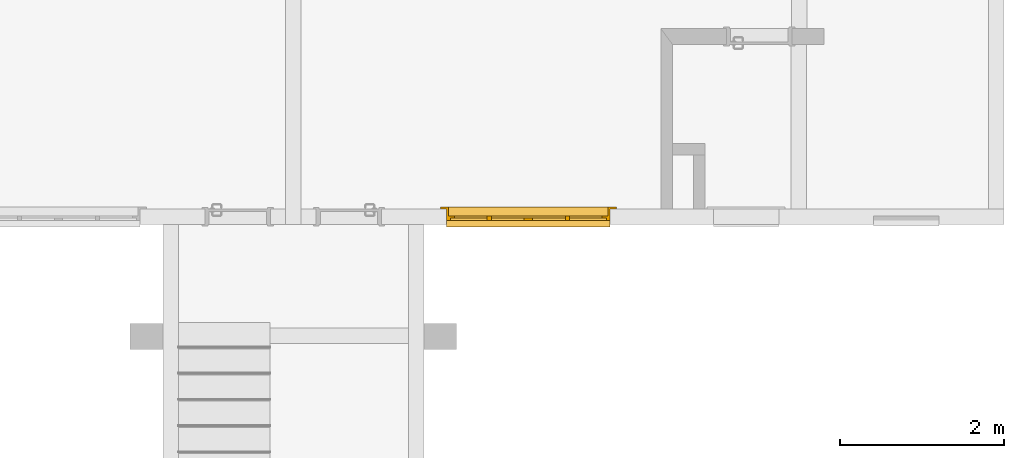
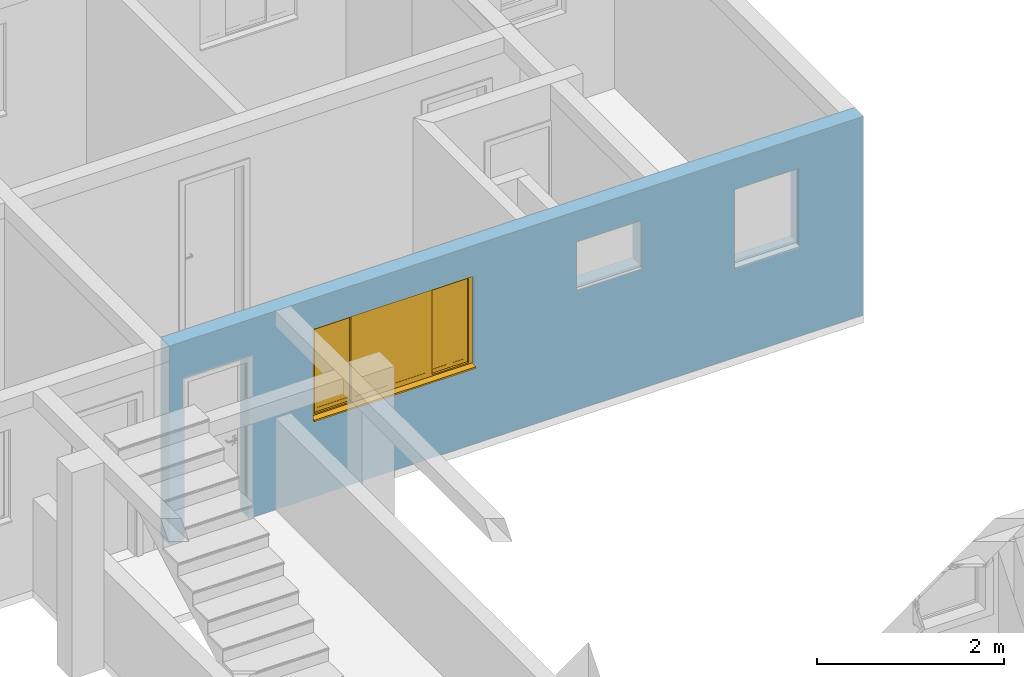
# One storey, part 29 of 43: 1 window, 4 openings, plus 1 element that does not belong to this part.
"""IFC2X3 building model written with IfcOpenShell, lengths in millimetres."""

from ifc_helpers import new_model, entity, si_unit, converted_unit, derived_unit, money_unit, direction, frame, origin_with_axes, origin_2d_with_axis, place, context, subcontext, project, spatial, polyline, rectangle, outline, extrude, open_shell, faceted_brep, surface_model, source, transform, mapped, material, layer, layer_set, layer_usage, type_object, element, fill, save


model = new_model("IFC2X3")

# Units and contexts
model_context = context("Model", 3, precision=0.01, world=origin_with_axes(), true_north=direction((0.0, 1.0)))
body_context = subcontext(model_context, "Body", "Model", "MODEL_VIEW")
ifc_project = project(units=[si_unit("LENGTHUNIT", "METRE", prefix="MILLI"), si_unit("AREAUNIT", "SQUARE_METRE"), si_unit("VOLUMEUNIT", "CUBIC_METRE"), converted_unit("PLANEANGLEUNIT", "DEGREE", entity("IfcPlaneAngleMeasure", 0.0174532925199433), si_unit("PLANEANGLEUNIT", "RADIAN"), dimensions=[0, 0, 0, 0, 0, 0, 0]), money_unit("USD"), converted_unit("TIMEUNIT", "Year", entity("IfcTimeMeasure", 31557600.0), si_unit("TIMEUNIT", "SECOND"), dimensions=[0, 0, 1, 0, 0, 0, 0]), si_unit("MASSUNIT", "GRAM", prefix="KILO"), si_unit("THERMODYNAMICTEMPERATUREUNIT", "DEGREE_CELSIUS"), si_unit("LUMINOUSINTENSITYUNIT", "LUMEN"), si_unit("ENERGYUNIT", "JOULE", prefix="MEGA"), derived_unit("THERMALCONDUCTANCEUNIT", [(si_unit("POWERUNIT", "WATT"), 1), (si_unit("LENGTHUNIT", "METRE"), -1), (si_unit("THERMODYNAMICTEMPERATUREUNIT", "KELVIN"), -1)]), derived_unit("SPECIFICHEATCAPACITYUNIT", [(si_unit("ENERGYUNIT", "JOULE"), 1), (si_unit("MASSUNIT", "GRAM", prefix="KILO"), -1), (si_unit("THERMODYNAMICTEMPERATUREUNIT", "KELVIN"), -1)]), derived_unit("MASSDENSITYUNIT", [(si_unit("MASSUNIT", "GRAM", prefix="KILO"), 1), (si_unit("VOLUMEUNIT", "CUBIC_METRE"), -1)])], contexts=[model_context])

# Site, building, storey
site_placement = place(None, origin_with_axes())
site = spatial("IfcSite", under=ifc_project, at=site_placement, Name="Local", CompositionType="ELEMENT")
building_placement = place(site_placement, origin_with_axes())
building = spatial("IfcBuilding", under=site, at=building_placement, Name="Construção", CompositionType="ELEMENT")
storey_placement = place(building_placement, origin_with_axes())
storey = spatial("IfcBuildingStorey", under=building, at=storey_placement, Name="Pavimento Tipo", CompositionType="ELEMENT", Elevation=0.0)

# Wall, openings, window
ifc_material = material(Name="Concreto - Estrutural")
ifc_layer = layer(ifc_material, 190.0, ventilated="UNKNOWN")
ifc_layer_set = layer_set([ifc_layer], Name="Concreto - Estrutural 190")
ifc_layer_usage = layer_usage(ifc_layer_set, "AXIS2", "POSITIVE", 0.0)
wall_type = type_object("IfcWallType", Name="Concreto - Estrutural 190", PredefinedType="NOTDEFINED")
wall_placement = place(storey_placement, frame((72476.96486497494, 5832.461520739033, 0.0), z_axis=(0.0, 0.0, 1.0), x_axis=(-1.0, 0.0, 0.0)))
wall = element("IfcWallStandardCase", 1, at=wall_placement, inside=storey, type_object=wall_type, material=ifc_layer_usage, Name="Apartamento 1 - Parede-001", context=body_context, shape_type="SweptSolid", body=[
    extrude(outline(polyline([(0.0, 0.0), (8584.765133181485, 0.0), (8584.765133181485, 190.0000000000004), (0.0, 190.0000000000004), (0.0, 0.0)])), origin_with_axes(), (0.0, 0.0, 1.0), 2600.0),
])
opening_1_placement = place(wall_placement, frame((1195.000000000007, 0.0, 1200.0), z_axis=(0.0, 0.0, 1.0), x_axis=(1.0, 0.0, 0.0)))
element("IfcOpeningElement", 2, at=opening_1_placement, cuts=wall, Name="Apartamento 1 - J03", context=body_context, shape_type="SweptSolid", body=[
    extrude(rectangle(XDim=800.0000000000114, YDim=1000.0, at=origin_2d_with_axis()), frame((0.0, 139.9999999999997, 500.0), z_axis=(0.0, -1.0, 0.0), x_axis=(-1.0, 0.0, 0.0)), (0.0, 0.0, 1.0), 330.0),
    extrude(rectangle(XDim=800.0000000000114, YDim=1000.0, at=origin_2d_with_axis()), frame((0.0, 139.9999999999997, 500.0), z_axis=(0.0, 1.0, 0.0), x_axis=(-1.0, 0.0, 0.0)), (0.0, 0.0, 1.0), 240.0),
    extrude(rectangle(XDim=800.0000000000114, YDim=30.00000000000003, at=origin_2d_with_axis()), frame((0.0, 104.9999999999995, -14.9999999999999), z_axis=(0.0, 1.0, 0.0), x_axis=(-1.0, 0.0, 0.0)), (0.0, 0.0, 1.0), 225.0),
])
opening_2_placement = place(wall_placement, frame((3149.999999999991, 0.0, 1600.0), z_axis=(0.0, 0.0, 1.0), x_axis=(1.0, 0.0, 0.0)))
element("IfcOpeningElement", 3, at=opening_2_placement, cuts=wall, Name="Apartamento 1 - J02", context=body_context, shape_type="SweptSolid", body=[
    extrude(rectangle(XDim=800.0000000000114, YDim=600.0000000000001, at=origin_2d_with_axis()), frame((0.0, -190.0000000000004, 300.0000000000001), z_axis=(0.0, -1.0, 0.0), x_axis=(-1.0, 0.0, 0.0)), (0.0, 0.0, -1.0), 570.0000000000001),
    extrude(rectangle(XDim=800.0000000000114, YDim=30.00000000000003, at=origin_2d_with_axis()), frame((0.0, 155.0000000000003, -14.9999999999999), z_axis=(0.0, 1.0, 0.0), x_axis=(-1.0, 0.0, 0.0)), (0.0, 0.0, 1.0), 225.0),
    extrude(rectangle(XDim=949.9999999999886, YDim=750.0000000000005, at=origin_2d_with_axis()), frame((0.0, 0.0, 300.0000000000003), z_axis=(0.0, -1.0, 0.0), x_axis=(-1.0, 0.0, 0.0)), (0.0, 0.0, 1.0), 190.0),
])
opening_3_placement = place(wall_placement, frame((5810.000000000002, 0.0, 1000.0), z_axis=(0.0, 0.0, 1.0), x_axis=(1.0, 0.0, 0.0)))
opening_3 = element("IfcOpeningElement", 4, at=opening_3_placement, cuts=wall, Name="Apartamento 1 - J01", context=body_context, shape_type="SweptSolid", body=[
    extrude(rectangle(XDim=2000.0, YDim=1200.0, at=origin_2d_with_axis()), frame((0.0, 139.9999999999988, 600.0000000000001), z_axis=(0.0, 1.0, 0.0), x_axis=(1.0, 0.0, 0.0)), (0.0, 0.0, -1.0), 330.0),
    extrude(rectangle(XDim=2000.0, YDim=1200.0, at=origin_2d_with_axis()), frame((0.0, 139.9999999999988, 600.0000000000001), z_axis=(0.0, -1.0, 0.0), x_axis=(1.0, 0.0, 0.0)), (0.0, 0.0, -1.0), 240.0),
    extrude(rectangle(XDim=2150.000000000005, YDim=1350.0, at=origin_2d_with_axis()), frame((0.0, 0.0, 599.9999999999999), z_axis=(0.0, 1.0, 0.0), x_axis=(1.0, 0.0, 0.0)), (0.0, 0.0, -1.0), 240.0),
])
opening_4_placement = place(wall_placement, frame((8000.0, 0.0, 0.0), z_axis=(0.0, 0.0, 1.0), x_axis=(1.0, 0.0, 0.0)))
element("IfcOpeningElement", 5, at=opening_4_placement, cuts=wall, Name="Apartamento 1 - P01", context=body_context, shape_type="SweptSolid", body=[
    extrude(rectangle(XDim=800.0000000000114, YDim=2100.0, at=origin_2d_with_axis()), frame((0.0, -190.0000000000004, 1050.0), z_axis=(0.0, -1.0, 0.0), x_axis=(1.0, 0.0, 0.0)), (0.0, 0.0, -1.0), 570.0000000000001),
    extrude(rectangle(XDim=870.0000000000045, YDim=2135.0, at=origin_2d_with_axis()), frame((0.0, 0.0, 1067.5), z_axis=(0.0, -1.0, 0.0), x_axis=(1.0, 0.0, 0.0)), (0.0, 0.0, 1.0), 190.0),
    extrude(rectangle(XDim=870.0000000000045, YDim=2135.0, at=origin_2d_with_axis()), frame((0.0, 189.9999999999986, 1067.5), z_axis=(0.0, 1.0, 0.0), x_axis=(1.0, 0.0, 0.0)), (0.0, 0.0, 1.0), 190.0),
])
window_style = type_object("IfcWindowStyle", Name="Janela de Correr 4-Folhas 27", ConstructionType="NOTDEFINED", OperationType="USERDEFINED", ParameterTakesPrecedence=False, Sizeable=False)
shared_shape = source(origin_with_axes(), body_context, "Body", "SurfaceModel", [
    faceted_brep([(-1000.0, 0.0, 5.0), (-1000.0, 0.0, 30.0), (-1000.0, 50.0, 27.37961103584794), (-1000.0, 50.0, 5.000000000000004), (1000.0, 0.0, 5.0), (1000.0, 0.0, 30.0), (1000.0, 50.0, 27.37961103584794), (1000.0, 80.0, 25.8073776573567), (-1000.0, 80.0, 25.8073776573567), (-1000.0, 80.0, 5.000000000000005), (1000.0, 80.0, 5.000000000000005), (1000.0, 50.0, 5.000000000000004)], [[[0, 1, 2, 3]], [[4, 5, 1, 0]], [[1, 5, 6, 7, 8, 2]], [[3, 2, 8, 9]], [[0, 3, 9, 10, 11, 4]], [[11, 6, 5, 4]], [[10, 7, 6, 11]], [[9, 8, 7, 10]]]),
    faceted_brep([(-1000.0, 0.0, 0.0), (-1000.0, 0.0, 5.0), (-1000.0, 50.0, 5.0), (-1000.0, 50.0, 0.0), (1000.0, 0.0, 0.0), (1000.0, 0.0, 5.0), (1000.0, 50.0, 5.0), (1000.0, 50.0, 0.0)], [[[0, 1, 2, 3]], [[4, 5, 1, 0]], [[1, 5, 6, 2]], [[3, 2, 6, 7]], [[0, 3, 7, 4]], [[7, 6, 5, 4]]]),
    faceted_brep([(-1000.0, -50.0, 0.0), (1000.0, -50.0, 0.0), (1000.0, -140.0, 0.0), (-1000.0, -140.0, 0.0), (-1000.0, -50.00000000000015, 1200.0), (1000.0, -50.00000000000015, 1200.0), (-975.0, -50.0, 24.99999999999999), (975.0, -50.0, 24.99999999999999), (975.0, -50.00000000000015, 1175.0), (-975.0, -50.00000000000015, 1175.0), (1000.0, -140.0000000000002, 1200.0), (-1000.0, -140.0000000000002, 1200.0), (-975.0, -140.0, 24.99999999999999), (-975.0, -140.0000000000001, 1175.0), (975.0, -140.0000000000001, 1175.0), (975.0, -140.0, 24.99999999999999)], [[[0, 1, 2, 3]], [[0, 4, 5, 1], [6, 7, 8, 9]], [[1, 5, 10, 2]], [[3, 2, 10, 11], [12, 13, 14, 15]], [[4, 0, 3, 11]], [[5, 4, 11, 10]], [[7, 6, 12, 15]], [[8, 7, 15, 14]], [[9, 8, 14, 13]], [[6, 9, 13, 12]]]),
    faceted_brep([(-1075.0, -165.0, -75.00000000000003), (-1075.0, -140.0, -75.00000000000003), (-975.0, -140.0, 24.99999999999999), (-975.0, -165.0, 24.99999999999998), (-1075.0, -165.0000000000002, 1275.0), (-1075.0, -140.0000000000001, 1275.0), (-975.0, -140.0000000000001, 1175.0), (-975.0, -165.0000000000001, 1175.0)], [[[0, 1, 2, 3]], [[4, 5, 1, 0]], [[1, 5, 6, 2]], [[3, 2, 6, 7]], [[0, 3, 7, 4]], [[7, 6, 5, 4]]]),
    faceted_brep([(1075.0, -165.0000000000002, 1275.0), (1075.0, -140.0000000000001, 1275.0), (975.0, -140.0000000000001, 1175.0), (975.0, -165.0000000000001, 1175.0), (1075.0, -165.0, -75.00000000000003), (1075.0, -140.0, -75.00000000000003), (975.0, -140.0, 24.99999999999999), (975.0, -165.0, 24.99999999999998)], [[[0, 1, 2, 3]], [[4, 5, 1, 0]], [[1, 5, 6, 2]], [[3, 2, 6, 7]], [[0, 3, 7, 4]], [[7, 6, 5, 4]]]),
    faceted_brep([(1075.0, -165.0, -75.00000000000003), (1075.0, -140.0, -75.00000000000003), (975.0, -140.0, 24.99999999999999), (975.0, -165.0, 24.99999999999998), (-1075.0, -165.0, -75.00000000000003), (-1075.0, -140.0, -75.00000000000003), (-975.0, -140.0, 24.99999999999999), (-975.0, -165.0, 24.99999999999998)], [[[0, 1, 2, 3]], [[4, 5, 1, 0]], [[1, 5, 6, 2]], [[3, 2, 6, 7]], [[0, 3, 7, 4]], [[7, 6, 5, 4]]]),
    faceted_brep([(-1075.0, -165.0000000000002, 1275.0), (-1075.0, -140.0000000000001, 1275.0), (-975.0, -140.0000000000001, 1175.0), (-975.0, -165.0000000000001, 1175.0), (1075.0, -165.0000000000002, 1275.0), (1075.0, -140.0000000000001, 1275.0), (975.0, -140.0000000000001, 1175.0), (975.0, -165.0000000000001, 1175.0)], [[[0, 1, 2, 3]], [[4, 5, 1, 0]], [[1, 5, 6, 2]], [[3, 2, 6, 7]], [[0, 3, 7, 4]], [[7, 6, 5, 4]]]),
    faceted_brep([(-953.0, -50.00000000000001, 47.0), (-953.0, 0.0, 47.00000000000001), (-953.0, 0.0, 1153.0), (-953.0, -50.00000000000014, 1153.0), (-1000.0, -50.00000000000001, 47.0), (-1000.0, 0.0, 47.00000000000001), (-1000.0, 0.0, 1153.0), (-1000.0, -50.00000000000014, 1153.0)], [[[0, 1, 2, 3]], [[4, 5, 1, 0]], [[1, 5, 6, 2]], [[3, 2, 6, 7]], [[0, 3, 7, 4]], [[7, 6, 5, 4]]]),
    faceted_brep([(1000.0, -50.00000000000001, 47.0), (1000.0, 0.0, 47.00000000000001), (1000.0, 0.0, 1153.0), (1000.0, -50.00000000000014, 1153.0), (953.0, -50.00000000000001, 47.0), (953.0, 0.0, 47.00000000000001), (953.0, 0.0, 1153.0), (953.0, -50.00000000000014, 1153.0)], [[[0, 1, 2, 3]], [[4, 5, 1, 0]], [[1, 5, 6, 2]], [[3, 2, 6, 7]], [[0, 3, 7, 4]], [[7, 6, 5, 4]]]),
    faceted_brep([(1000.0, -50.00000000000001, 47.0), (1000.0, 0.0, 47.00000000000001), (953.0, 0.0, 47.00000000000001), (953.0, -50.00000000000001, 47.0), (1000.0, -50.0, 0.0), (1000.0, 0.0, 0.0), (-1000.0, 0.0, 0.0), (-1000.0, 0.0, 47.00000000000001), (-953.0, 0.0, 47.00000000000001), (-953.0, -50.00000000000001, 47.0), (-1000.0, -50.00000000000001, 47.0), (-1000.0, -50.0, 0.0)], [[[0, 1, 2, 3]], [[4, 5, 1, 0]], [[1, 5, 6, 7, 8, 2]], [[3, 2, 8, 9]], [[0, 3, 9, 10, 11, 4]], [[11, 6, 5, 4]], [[10, 7, 6, 11]], [[9, 8, 7, 10]]]),
    faceted_brep([(1000.0, -50.00000000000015, 1200.0), (1000.0, 0.0, 1200.0), (-1000.0, 0.0, 1200.0), (-1000.0, -50.00000000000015, 1200.0), (1000.0, -50.00000000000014, 1153.0), (1000.0, 0.0, 1153.0), (953.0, 0.0, 1153.0), (476.5000000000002, 0.0, 1153.0), (0.0, 0.0, 1153.0), (-476.4999999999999, 0.0, 1153.0), (-953.0, 0.0, 1153.0), (-1000.0, 0.0, 1153.0), (-1000.0, -50.00000000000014, 1153.0), (-953.0, -50.00000000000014, 1153.0), (-476.4999999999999, -50.00000000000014, 1153.0), (0.0, -50.00000000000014, 1153.0), (476.5000000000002, -50.00000000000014, 1153.0), (953.0, -50.00000000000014, 1153.0)], [[[0, 1, 2, 3]], [[4, 5, 1, 0]], [[1, 5, 6, 7, 8, 9, 10, 11, 2]], [[3, 2, 11, 12]], [[0, 3, 12, 13, 14, 15, 16, 17, 4]], [[17, 6, 5, 4]], [[16, 7, 6, 17]], [[15, 8, 7, 16]], [[14, 9, 8, 15]], [[13, 10, 9, 14]], [[12, 11, 10, 13]]]),
    faceted_brep([(-903.0, -50.00000000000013, 1103.0), (-903.0, -25.00000000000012, 1103.0), (-953.0, -25.00000000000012, 1103.0), (-953.0, -50.00000000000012, 1103.0), (-903.0, -50.0, 97.0), (-903.0, -25.0, 97.0), (-953.0, -25.0, 97.0), (-953.0, -50.0, 97.0)], [[[0, 1, 2, 3]], [[4, 5, 1, 0]], [[1, 5, 6, 2]], [[3, 2, 6, 7]], [[0, 3, 7, 4]], [[7, 6, 5, 4]]]),
    faceted_brep([(-501.4999999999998, -50.00000000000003, 97.0), (-501.4999999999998, -25.00000000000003, 97.0), (-451.4999999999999, -25.00000000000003, 97.0), (-451.4999999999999, -50.00000000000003, 97.0), (-501.4999999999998, -50.00000000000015, 1103.0), (-501.4999999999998, -25.00000000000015, 1103.0), (-451.4999999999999, -25.00000000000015, 1103.0), (-451.4999999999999, -50.00000000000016, 1103.0)], [[[0, 1, 2, 3]], [[4, 5, 1, 0]], [[1, 5, 6, 2]], [[3, 2, 6, 7]], [[0, 3, 7, 4]], [[7, 6, 5, 4]]]),
    faceted_brep([(-451.4999999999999, -50.00000000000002, 47.0), (-451.4999999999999, -25.00000000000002, 47.0), (-451.4999999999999, -25.00000000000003, 97.0), (-451.4999999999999, -50.00000000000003, 97.0), (-953.0, -49.99999999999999, 47.0), (-953.0, -24.99999999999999, 47.0), (-953.0, -25.0, 97.0), (-903.0, -25.0, 97.0), (-501.4999999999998, -25.00000000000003, 97.0), (-501.4999999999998, -50.00000000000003, 97.0), (-903.0, -50.0, 97.0), (-953.0, -50.0, 97.0)], [[[0, 1, 2, 3]], [[4, 5, 1, 0]], [[1, 5, 6, 7, 8, 2]], [[3, 2, 8, 9]], [[0, 3, 9, 10, 11, 4]], [[11, 6, 5, 4]], [[10, 7, 6, 11]], [[9, 8, 7, 10]]]),
    faceted_brep([(-953.0, -50.00000000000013, 1153.0), (-953.0, -25.00000000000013, 1153.0), (-953.0, -25.00000000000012, 1103.0), (-953.0, -50.00000000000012, 1103.0), (-451.4999999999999, -50.00000000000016, 1153.0), (-451.4999999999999, -25.00000000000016, 1153.0), (-451.4999999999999, -25.00000000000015, 1103.0), (-501.4999999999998, -25.00000000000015, 1103.0), (-903.0, -25.00000000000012, 1103.0), (-903.0, -50.00000000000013, 1103.0), (-501.4999999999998, -50.00000000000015, 1103.0), (-451.4999999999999, -50.00000000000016, 1103.0)], [[[0, 1, 2, 3]], [[4, 5, 1, 0]], [[1, 5, 6, 7, 8, 2]], [[3, 2, 8, 9]], [[0, 3, 9, 10, 11, 4]], [[11, 6, 5, 4]], [[10, 7, 6, 11]], [[9, 8, 7, 10]]]),
    surface_model("IfcShellBasedSurfaceModel", [(-903.0, -47.50000000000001, 97.0), (-501.4999999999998, -47.50000000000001, 97.0), (-501.4999999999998, -47.50000000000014, 1103.0), (-903.0, -47.50000000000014, 1103.0)], [open_shell([[[0, 1, 2, 3]]])]),
    surface_model("IfcShellBasedSurfaceModel", [(-903.0, -27.50000000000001, 97.0), (-903.0, -27.50000000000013, 1103.0), (-501.4999999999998, -27.50000000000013, 1103.0), (-501.4999999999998, -27.50000000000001, 97.0)], [open_shell([[[0, 1, 2, 3]]])]),
    faceted_brep([(-451.4999999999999, -25.00000000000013, 1103.0), (-451.4999999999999, 0.0, 1103.0), (-501.4999999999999, 0.0, 1103.0), (-501.4999999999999, -25.00000000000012, 1103.0), (-451.4999999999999, -25.0, 97.0), (-451.4999999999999, 0.0, 97.0), (-501.4999999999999, 0.0, 97.0), (-501.4999999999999, -25.0, 97.0)], [[[0, 1, 2, 3]], [[4, 5, 1, 0]], [[1, 5, 6, 2]], [[3, 2, 6, 7]], [[0, 3, 7, 4]], [[7, 6, 5, 4]]]),
    faceted_brep([(-49.99999999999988, -25.00000000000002, 97.0), (-49.99999999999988, 0.0, 97.0), (0.0, 0.0, 97.0), (0.0, -25.00000000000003, 97.0), (-49.99999999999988, -25.00000000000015, 1103.0), (-49.99999999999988, 0.0, 1103.0), (0.0, 0.0, 1103.0), (0.0, -25.00000000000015, 1103.0)], [[[0, 1, 2, 3]], [[4, 5, 1, 0]], [[1, 5, 6, 2]], [[3, 2, 6, 7]], [[0, 3, 7, 4]], [[7, 6, 5, 4]]]),
    faceted_brep([(0.0, -25.00000000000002, 47.0), (0.0, 0.0, 47.0), (0.0, 0.0, 97.0), (0.0, -25.00000000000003, 97.0), (-501.4999999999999, -24.99999999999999, 47.0), (-501.4999999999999, 0.0, 47.0), (-501.4999999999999, 0.0, 97.0), (-451.4999999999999, 0.0, 97.0), (-49.99999999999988, 0.0, 97.0), (-49.99999999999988, -25.00000000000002, 97.0), (-451.4999999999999, -25.0, 97.0), (-501.4999999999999, -25.0, 97.0)], [[[0, 1, 2, 3]], [[4, 5, 1, 0]], [[1, 5, 6, 7, 8, 2]], [[3, 2, 8, 9]], [[0, 3, 9, 10, 11, 4]], [[11, 6, 5, 4]], [[10, 7, 6, 11]], [[9, 8, 7, 10]]]),
    faceted_brep([(-501.4999999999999, -25.00000000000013, 1153.0), (-501.4999999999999, 0.0, 1153.0), (-501.4999999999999, 0.0, 1103.0), (-501.4999999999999, -25.00000000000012, 1103.0), (0.0, -25.00000000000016, 1153.0), (0.0, 0.0, 1153.0), (0.0, 0.0, 1103.0), (-49.99999999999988, 0.0, 1103.0), (-451.4999999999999, 0.0, 1103.0), (-451.4999999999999, -25.00000000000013, 1103.0), (-49.99999999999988, -25.00000000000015, 1103.0), (0.0, -25.00000000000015, 1103.0)], [[[0, 1, 2, 3]], [[4, 5, 1, 0]], [[1, 5, 6, 7, 8, 2]], [[3, 2, 8, 9]], [[0, 3, 9, 10, 11, 4]], [[11, 6, 5, 4]], [[10, 7, 6, 11]], [[9, 8, 7, 10]]]),
    surface_model("IfcShellBasedSurfaceModel", [(-451.4999999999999, -22.50000000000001, 97.0), (-49.99999999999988, -22.50000000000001, 97.0), (-49.99999999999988, -22.50000000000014, 1103.0), (-451.4999999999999, -22.50000000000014, 1103.0)], [open_shell([[[0, 1, 2, 3]]])]),
    surface_model("IfcShellBasedSurfaceModel", [(-451.4999999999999, -2.500000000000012, 97.0), (-451.4999999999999, -2.500000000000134, 1103.0), (-49.99999999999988, -2.500000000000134, 1103.0), (-49.99999999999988, -2.500000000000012, 97.0)], [open_shell([[[0, 1, 2, 3]]])]),
    faceted_brep([(50.0000000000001, -25.00000000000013, 1103.0), (50.0000000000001, 0.0, 1103.0), (0.0, 0.0, 1103.0), (0.0, -25.00000000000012, 1103.0), (50.0000000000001, -25.0, 97.0), (50.0000000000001, 0.0, 97.0), (0.0, 0.0, 97.0), (0.0, -25.0, 97.0)], [[[0, 1, 2, 3]], [[4, 5, 1, 0]], [[1, 5, 6, 2]], [[3, 2, 6, 7]], [[0, 3, 7, 4]], [[7, 6, 5, 4]]]),
    faceted_brep([(451.5000000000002, -25.00000000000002, 97.0), (451.5000000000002, 0.0, 97.0), (501.5000000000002, 0.0, 97.0), (501.5000000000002, -25.00000000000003, 97.0), (451.5000000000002, -25.00000000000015, 1103.0), (451.5000000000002, 0.0, 1103.0), (501.5000000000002, 0.0, 1103.0), (501.5000000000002, -25.00000000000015, 1103.0)], [[[0, 1, 2, 3]], [[4, 5, 1, 0]], [[1, 5, 6, 2]], [[3, 2, 6, 7]], [[0, 3, 7, 4]], [[7, 6, 5, 4]]]),
    faceted_brep([(501.5000000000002, -25.00000000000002, 47.0), (501.5000000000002, 0.0, 47.0), (501.5000000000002, 0.0, 97.0), (501.5000000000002, -25.00000000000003, 97.0), (0.0, -24.99999999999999, 47.0), (0.0, 0.0, 47.0), (0.0, 0.0, 97.0), (50.0000000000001, 0.0, 97.0), (451.5000000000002, 0.0, 97.0), (451.5000000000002, -25.00000000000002, 97.0), (50.0000000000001, -25.0, 97.0), (0.0, -25.0, 97.0)], [[[0, 1, 2, 3]], [[4, 5, 1, 0]], [[1, 5, 6, 7, 8, 2]], [[3, 2, 8, 9]], [[0, 3, 9, 10, 11, 4]], [[11, 6, 5, 4]], [[10, 7, 6, 11]], [[9, 8, 7, 10]]]),
    faceted_brep([(0.0, -25.00000000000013, 1153.0), (0.0, 0.0, 1153.0), (0.0, 0.0, 1103.0), (0.0, -25.00000000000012, 1103.0), (501.5000000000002, -25.00000000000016, 1153.0), (501.5000000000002, 0.0, 1153.0), (501.5000000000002, 0.0, 1103.0), (451.5000000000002, 0.0, 1103.0), (50.0000000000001, 0.0, 1103.0), (50.0000000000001, -25.00000000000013, 1103.0), (451.5000000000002, -25.00000000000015, 1103.0), (501.5000000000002, -25.00000000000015, 1103.0)], [[[0, 1, 2, 3]], [[4, 5, 1, 0]], [[1, 5, 6, 7, 8, 2]], [[3, 2, 8, 9]], [[0, 3, 9, 10, 11, 4]], [[11, 6, 5, 4]], [[10, 7, 6, 11]], [[9, 8, 7, 10]]]),
    surface_model("IfcShellBasedSurfaceModel", [(50.0000000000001, -22.50000000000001, 97.0), (451.5000000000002, -22.50000000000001, 97.0), (451.5000000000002, -22.50000000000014, 1103.0), (50.0000000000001, -22.50000000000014, 1103.0)], [open_shell([[[0, 1, 2, 3]]])]),
    surface_model("IfcShellBasedSurfaceModel", [(50.0000000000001, -2.500000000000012, 97.0), (50.0000000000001, -2.500000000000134, 1103.0), (451.5000000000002, -2.500000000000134, 1103.0), (451.5000000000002, -2.500000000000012, 97.0)], [open_shell([[[0, 1, 2, 3]]])]),
    faceted_brep([(501.5000000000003, -50.00000000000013, 1103.0), (501.5000000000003, -25.00000000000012, 1103.0), (451.5000000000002, -25.00000000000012, 1103.0), (451.5000000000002, -50.00000000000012, 1103.0), (501.5000000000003, -50.0, 97.0), (501.5000000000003, -25.0, 97.0), (451.5000000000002, -25.0, 97.0), (451.5000000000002, -50.0, 97.0)], [[[0, 1, 2, 3]], [[4, 5, 1, 0]], [[1, 5, 6, 2]], [[3, 2, 6, 7]], [[0, 3, 7, 4]], [[7, 6, 5, 4]]]),
    faceted_brep([(903.0000000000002, -50.00000000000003, 97.0), (903.0000000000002, -25.00000000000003, 97.0), (953.0000000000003, -25.00000000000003, 97.0), (953.0000000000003, -50.00000000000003, 97.0), (903.0000000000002, -50.00000000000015, 1103.0), (903.0000000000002, -25.00000000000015, 1103.0), (953.0000000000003, -25.00000000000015, 1103.0), (953.0000000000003, -50.00000000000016, 1103.0)], [[[0, 1, 2, 3]], [[4, 5, 1, 0]], [[1, 5, 6, 2]], [[3, 2, 6, 7]], [[0, 3, 7, 4]], [[7, 6, 5, 4]]]),
    faceted_brep([(953.0000000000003, -50.00000000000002, 47.0), (953.0000000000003, -25.00000000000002, 47.0), (953.0000000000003, -25.00000000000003, 97.0), (953.0000000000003, -50.00000000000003, 97.0), (451.5000000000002, -49.99999999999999, 47.0), (451.5000000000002, -24.99999999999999, 47.0), (451.5000000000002, -25.0, 97.0), (501.5000000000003, -25.0, 97.0), (903.0000000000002, -25.00000000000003, 97.0), (903.0000000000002, -50.00000000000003, 97.0), (501.5000000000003, -50.0, 97.0), (451.5000000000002, -50.0, 97.0)], [[[0, 1, 2, 3]], [[4, 5, 1, 0]], [[1, 5, 6, 7, 8, 2]], [[3, 2, 8, 9]], [[0, 3, 9, 10, 11, 4]], [[11, 6, 5, 4]], [[10, 7, 6, 11]], [[9, 8, 7, 10]]]),
    faceted_brep([(451.5000000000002, -50.00000000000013, 1153.0), (451.5000000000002, -25.00000000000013, 1153.0), (451.5000000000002, -25.00000000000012, 1103.0), (451.5000000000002, -50.00000000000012, 1103.0), (953.0000000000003, -50.00000000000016, 1153.0), (953.0000000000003, -25.00000000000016, 1153.0), (953.0000000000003, -25.00000000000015, 1103.0), (903.0000000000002, -25.00000000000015, 1103.0), (501.5000000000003, -25.00000000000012, 1103.0), (501.5000000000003, -50.00000000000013, 1103.0), (903.0000000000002, -50.00000000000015, 1103.0), (953.0000000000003, -50.00000000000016, 1103.0)], [[[0, 1, 2, 3]], [[4, 5, 1, 0]], [[1, 5, 6, 7, 8, 2]], [[3, 2, 8, 9]], [[0, 3, 9, 10, 11, 4]], [[11, 6, 5, 4]], [[10, 7, 6, 11]], [[9, 8, 7, 10]]]),
    surface_model("IfcShellBasedSurfaceModel", [(501.5000000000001, -47.50000000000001, 97.0), (903.0000000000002, -47.50000000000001, 97.0), (903.0000000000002, -47.50000000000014, 1103.0), (501.5000000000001, -47.50000000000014, 1103.0)], [open_shell([[[0, 1, 2, 3]]])]),
    surface_model("IfcShellBasedSurfaceModel", [(501.5000000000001, -27.50000000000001, 97.0), (501.5000000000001, -27.50000000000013, 1103.0), (903.0000000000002, -27.50000000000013, 1103.0), (903.0000000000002, -27.50000000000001, 97.0)], [open_shell([[[0, 1, 2, 3]]])]),
])
window_placement = place(opening_3_placement, frame((-1000.0, 0.0, 0.0), z_axis=(0.0, 0.0, 1.0), x_axis=(1.0, 0.0, 0.0)))
window = element("IfcWindow", 6, at=window_placement, inside=storey, type_object=window_style, Name="Apartamento 1 - J01", ObjectType="WINDOW", OverallHeight=1200.0, OverallWidth=2000.0, context=body_context, shape_type="MappedRepresentation", body=[
    mapped(shared_shape, transform((1000.0, 139.9999999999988, 0.0))),
])
fill(opening_3, window)

save(model, "model.ifc")
